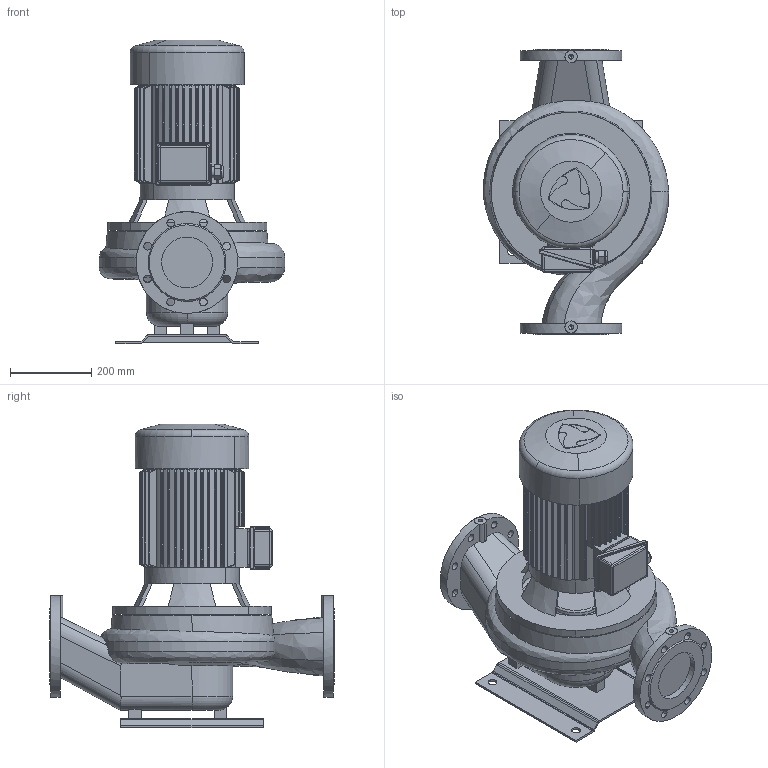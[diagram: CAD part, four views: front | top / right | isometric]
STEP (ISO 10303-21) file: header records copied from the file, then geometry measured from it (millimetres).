
FILE_DESCRIPTION(('STEP AP214'),'1');
FILE_NAME('export.stp','2018-05-28T10:29:54',(' '),(' '),'Spatial InterOp 3D',' ',' ');
FILE_SCHEMA(('AUTOMOTIVE_DESIGN { 1 0 10303 214 1 1 1 1 }'));
Length unit declared in the file: millimetre
Products named in the file (11): V_MOKN133; RU_OKN_133; TSUOJA_OKN_132_133; KYTKOTELO_OKN_100_133; W_AL11294550KP133; V_EKF31OKN132133; V_TL110611291154; V_PPAL1129; P100496; P100495; P100342
Assembly tree (11 placements, depth 3):
  W_AL11294550KP133
    V_MOKN133
      RU_OKN_133
      TSUOJA_OKN_132_133
      KYTKOTELO_OKN_100_133
    V_EKF31OKN132133
    V_TL110611291154
    V_PPAL1129
    P100496
      P100495  x2
      P100342
Bounding box: 455.78 x 700 x 746.5 mm (x, y, z)
Volume: 47856393.3 mm3; surface area: 2570309.4 mm2
Topology: 9 solids, 10 shells, 761 faces, 1979 edges, 1234 vertices
Faces by surface type: cylinder 342, plane 274, cone 104, torus 16, bspline 13, sphere 12
Entity records: 40044 total; most frequent: CARTESIAN_POINT 8690, ORIENTED_EDGE 3890, DIRECTION 3769, STYLED_ITEM 2172, PRESENTATION_STYLE_ASSIGNMENT 2172, COLOUR_RGB 2172, EDGE_CURVE 1945, AXIS2_PLACEMENT_3D 1515
